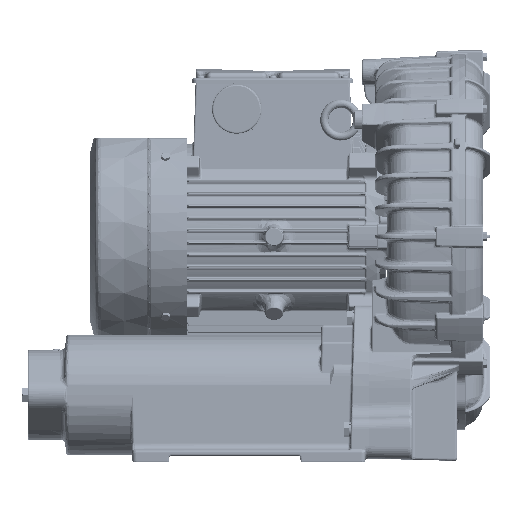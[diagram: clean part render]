
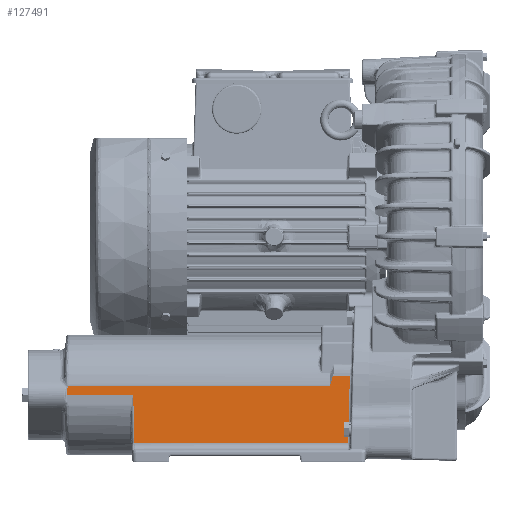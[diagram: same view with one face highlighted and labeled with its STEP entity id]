
A CAD part, left-side view. The second image highlights one B-rep face of the part: STEP entity #127491.
In plain terms, the highlighted planar face has unit normal (-1, 0, 0.026).
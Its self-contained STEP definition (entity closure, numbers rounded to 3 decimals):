
#8698=LINE('',#302823,#12631);
#8699=LINE('',#302868,#12632);
#8879=LINE('',#320390,#12812);
#8880=LINE('',#320391,#12813);
#8926=LINE('',#320881,#12859);
#8927=LINE('',#320883,#12860);
#8928=LINE('',#320885,#12861);
#8929=LINE('',#320887,#12862);
#8930=LINE('',#320889,#12863);
#8931=LINE('',#320891,#12864);
#8932=LINE('',#320892,#12865);
#12631=VECTOR('',#157448,8.204);
#12632=VECTOR('',#157453,70.54);
#12812=VECTOR('',#158799,319.151);
#12813=VECTOR('',#158800,1.583);
#12859=VECTOR('',#158958,21.183);
#12860=VECTOR('',#158959,1.432);
#12861=VECTOR('',#158960,2.049);
#12862=VECTOR('',#158961,9.074);
#12863=VECTOR('',#158962,80.749);
#12864=VECTOR('',#158963,58.276);
#12865=VECTOR('',#158964,260.348);
#15178=PLANE('',#137835);
#20749=FACE_OUTER_BOUND('',#28911,.T.);
#28911=EDGE_LOOP('',(#99281,#99282,#99283,#99284,#99285,#99286,#99287,#99288,
#99289,#99290,#99291,#99292,#99293));
#43636=B_SPLINE_CURVE_WITH_KNOTS('',3,(#320400,#320401,#320402,#320403,
#320404,#320405),.UNSPECIFIED.,.F.,.F.,(4,1,1,4),(0.,0.333,0.667,
1.),.UNSPECIFIED.);
#43652=B_SPLINE_CURVE_WITH_KNOTS('',3,(#320868,#320869,#320870,#320871,
#320872,#320873,#320874,#320875,#320876,#320877,#320878,#320879,#320880),
 .UNSPECIFIED.,.F.,.F.,(4,1,1,1,1,1,1,1,1,1,4),(0.,0.1,0.2,0.3,0.4,0.5,
0.6,0.7,0.8,0.9,1.),.UNSPECIFIED.);
#52657=VERTEX_POINT('',#302820);
#52658=VERTEX_POINT('',#302822);
#52660=VERTEX_POINT('',#302866);
#52661=VERTEX_POINT('',#302867);
#53255=VERTEX_POINT('',#320381);
#53256=VERTEX_POINT('',#320387);
#53257=VERTEX_POINT('',#320389);
#53259=VERTEX_POINT('',#320399);
#53300=VERTEX_POINT('',#320882);
#53301=VERTEX_POINT('',#320884);
#53302=VERTEX_POINT('',#320886);
#53303=VERTEX_POINT('',#320888);
#53304=VERTEX_POINT('',#320890);
#67927=EDGE_CURVE('',#52658,#52657,#8698,.T.);
#67931=EDGE_CURVE('',#52660,#52661,#8699,.T.);
#69014=EDGE_CURVE('',#53257,#53256,#8879,.T.);
#69015=EDGE_CURVE('',#53255,#53257,#8880,.T.);
#69017=EDGE_CURVE('',#53255,#53259,#43636,.T.);
#69105=EDGE_CURVE('',#52661,#52658,#43652,.T.);
#69106=EDGE_CURVE('',#53259,#52657,#8926,.T.);
#69107=EDGE_CURVE('',#53256,#53300,#8927,.T.);
#69108=EDGE_CURVE('',#53300,#53301,#8928,.T.);
#69109=EDGE_CURVE('',#53302,#53301,#8929,.T.);
#69110=EDGE_CURVE('',#53303,#53302,#8930,.T.);
#69111=EDGE_CURVE('',#53304,#53303,#8931,.T.);
#69112=EDGE_CURVE('',#52660,#53304,#8932,.T.);
#99281=ORIENTED_EDGE('',*,*,#69105,.T.);
#99282=ORIENTED_EDGE('',*,*,#67927,.T.);
#99283=ORIENTED_EDGE('',*,*,#69106,.F.);
#99284=ORIENTED_EDGE('',*,*,#69017,.F.);
#99285=ORIENTED_EDGE('',*,*,#69015,.T.);
#99286=ORIENTED_EDGE('',*,*,#69014,.T.);
#99287=ORIENTED_EDGE('',*,*,#69107,.T.);
#99288=ORIENTED_EDGE('',*,*,#69108,.T.);
#99289=ORIENTED_EDGE('',*,*,#69109,.F.);
#99290=ORIENTED_EDGE('',*,*,#69110,.F.);
#99291=ORIENTED_EDGE('',*,*,#69111,.F.);
#99292=ORIENTED_EDGE('',*,*,#69112,.F.);
#99293=ORIENTED_EDGE('',*,*,#67931,.T.);
#127491=ADVANCED_FACE('',(#20749),#15178,.T.);
#137835=AXIS2_PLACEMENT_3D('',#320867,#158956,#158957);
#157448=DIRECTION('',(0.026,-0.026,0.999));
#157453=DIRECTION('',(0.026,-0.026,0.999));
#158799=DIRECTION('',(0.,1.,0.));
#158800=DIRECTION('',(-0.026,0.,-1.));
#158956=DIRECTION('center_axis',(-1.,0.,
0.026));
#158957=DIRECTION('ref_axis',(-0.026,0.,-1.));
#158958=DIRECTION('',(0.,-1.,0.));
#158959=DIRECTION('',(-0.026,0.026,-0.999));
#158960=DIRECTION('',(0.,1.,0.));
#158961=DIRECTION('',(0.026,0.026,0.999));
#158962=DIRECTION('',(0.,1.,0.));
#158963=DIRECTION('',(0.026,0.026,0.999));
#158964=DIRECTION('',(0.,1.,0.));
#302820=CARTESIAN_POINT('',(-162.198,132.317,-169.371));
#302822=CARTESIAN_POINT('',(-162.412,132.532,-177.57));
#302823=CARTESIAN_POINT('',(-162.412,132.532,-177.57));
#302866=CARTESIAN_POINT('',(-164.341,134.96,-251.236));
#302867=CARTESIAN_POINT('',(-162.495,133.115,-180.744));
#302868=CARTESIAN_POINT('',(-164.341,134.96,-251.236));
#320381=CARTESIAN_POINT('',(-162.485,156.601,-180.92));
#320387=CARTESIAN_POINT('',(-162.541,475.734,-182.501));
#320389=CARTESIAN_POINT('',(-162.541,156.582,-182.501));
#320390=CARTESIAN_POINT('',(-162.541,156.582,-182.501));
#320391=CARTESIAN_POINT('',(-162.5,156.582,-180.918));
#320399=CARTESIAN_POINT('',(-162.198,153.5,-169.371));
#320400=CARTESIAN_POINT('Ctrl Pts',(-162.5,156.583,
-180.918));
#320401=CARTESIAN_POINT('Ctrl Pts',(-162.467,156.365,-179.664));
#320402=CARTESIAN_POINT('Ctrl Pts',(-162.41,155.848,-177.134));
#320403=CARTESIAN_POINT('Ctrl Pts',(-162.298,154.825,-173.296));
#320404=CARTESIAN_POINT('Ctrl Pts',(-162.232,153.97,
-170.686));
#320405=CARTESIAN_POINT('Ctrl Pts',(-162.198,153.5,
-169.371));
#320867=CARTESIAN_POINT('Origin',(-162.816,499.582,-193.));
#320868=CARTESIAN_POINT('Ctrl Pts',(-162.495,133.115,
-180.744));
#320869=CARTESIAN_POINT('Ctrl Pts',(-162.496,133.082,
-180.745));
#320870=CARTESIAN_POINT('Ctrl Pts',(-162.494,133.02,-180.702));
#320871=CARTESIAN_POINT('Ctrl Pts',(-162.49,132.93,-180.527));
#320872=CARTESIAN_POINT('Ctrl Pts',(-162.483,132.853,-180.284));
#320873=CARTESIAN_POINT('Ctrl Pts',(-162.476,132.787,-180.011));
#320874=CARTESIAN_POINT('Ctrl Pts',(-162.468,132.729,-179.707));
#320875=CARTESIAN_POINT('Ctrl Pts',(-162.459,132.675,-179.364));
#320876=CARTESIAN_POINT('Ctrl Pts',(-162.449,132.627,-178.982));
#320877=CARTESIAN_POINT('Ctrl Pts',(-162.438,132.585,-178.557));
#320878=CARTESIAN_POINT('Ctrl Pts',(-162.426,132.551,-178.088));
#320879=CARTESIAN_POINT('Ctrl Pts',(-162.417,132.536,
-177.748));
#320880=CARTESIAN_POINT('Ctrl Pts',(-162.412,132.532,
-177.57));
#320881=CARTESIAN_POINT('',(-162.198,153.5,-169.371));
#320882=CARTESIAN_POINT('',(-162.579,475.771,-183.932));
#320883=CARTESIAN_POINT('',(-162.541,475.734,-182.501));
#320884=CARTESIAN_POINT('',(-162.579,477.82,-183.932));
#320885=CARTESIAN_POINT('',(-162.579,475.771,-183.932));
#320886=CARTESIAN_POINT('',(-162.816,477.583,-193.));
#320887=CARTESIAN_POINT('',(-162.816,477.583,-193.));
#320888=CARTESIAN_POINT('',(-162.816,396.834,-193.));
#320889=CARTESIAN_POINT('',(-162.816,396.834,-193.));
#320890=CARTESIAN_POINT('',(-164.341,395.309,-251.236));
#320891=CARTESIAN_POINT('',(-164.341,395.309,-251.236));
#320892=CARTESIAN_POINT('',(-164.341,134.96,-251.236));
